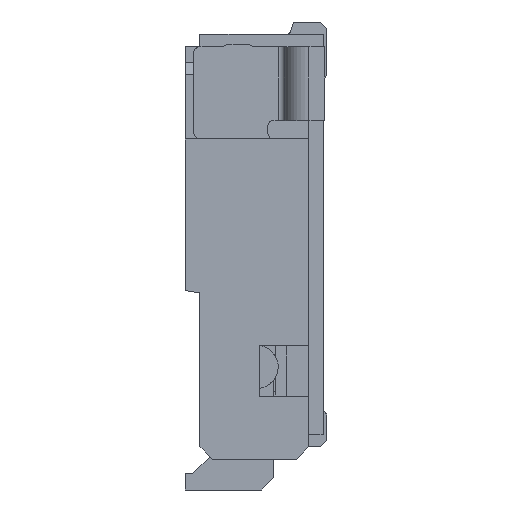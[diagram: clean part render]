
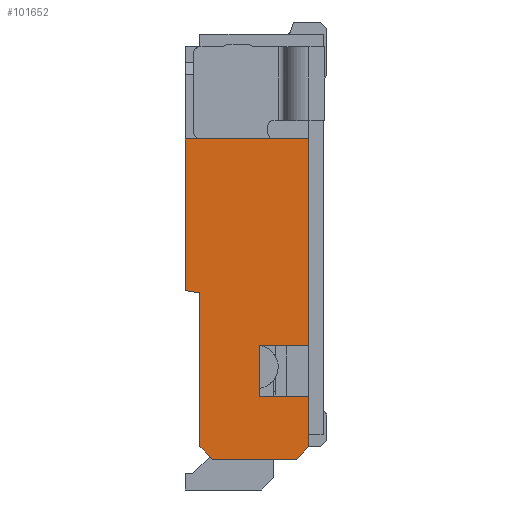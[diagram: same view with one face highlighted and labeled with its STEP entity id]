
A CAD part, left-side view. The second image highlights one B-rep face of the part: STEP entity #101652.
In plain terms, the highlighted planar face has unit normal (-1, 0, 0).
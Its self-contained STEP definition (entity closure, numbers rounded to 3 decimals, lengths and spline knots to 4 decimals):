
#25=DIRECTION('',(0.,-1.,0.));
#26=VECTOR('',#25,0.68);
#27=CARTESIAN_POINT('',(-8.7,0.34,-1.725));
#28=LINE('',#27,#26);
#175=DIRECTION('',(0.,0.,1.));
#176=VECTOR('',#175,1.68);
#177=CARTESIAN_POINT('',(-8.7,-0.44,-0.805));
#178=LINE('',#177,#176);
#199=DIRECTION('',(0.,0.,1.));
#200=VECTOR('',#199,0.41);
#201=CARTESIAN_POINT('',(-8.7,-0.44,-1.625));
#202=LINE('',#201,#200);
#2190=DIRECTION('',(0.,0.,-1.));
#2191=VECTOR('',#2190,0.41);
#2192=CARTESIAN_POINT('',(-8.7,-0.04,-0.805));
#2193=LINE('',#2192,#2191);
#2194=DIRECTION('',(0.,1.,0.));
#2195=VECTOR('',#2194,0.4);
#2196=CARTESIAN_POINT('',(-8.7,-0.44,-1.215));
#2197=LINE('',#2196,#2195);
#2198=DIRECTION('',(0.,-0.707,0.707));
#2199=VECTOR('',#2198,0.1414);
#2200=CARTESIAN_POINT('',(-8.7,-0.34,-1.725));
#2201=LINE('',#2200,#2199);
#2202=DIRECTION('',(0.,-0.707,-0.707));
#2203=VECTOR('',#2202,0.1414);
#2204=CARTESIAN_POINT('',(-8.7,0.44,-1.625));
#2205=LINE('',#2204,#2203);
#2206=DIRECTION('',(0.,0.,1.));
#2207=VECTOR('',#2206,1.25);
#2208=CARTESIAN_POINT('',(-8.7,0.44,-1.625));
#2209=LINE('',#2208,#2207);
#2210=DIRECTION('',(0.,-0.986,-0.164));
#2211=VECTOR('',#2210,0.1217);
#2212=CARTESIAN_POINT('',(-8.7,0.56,-0.355));
#2213=LINE('',#2212,#2211);
#2214=DIRECTION('',(0.,0.,1.));
#2215=VECTOR('',#2214,1.23);
#2216=CARTESIAN_POINT('',(-8.7,0.56,-0.355));
#2217=LINE('',#2216,#2215);
#2218=DIRECTION('',(0.,-1.,0.));
#2219=VECTOR('',#2218,1.);
#2220=CARTESIAN_POINT('',(-8.7,0.56,0.875));
#2221=LINE('',#2220,#2219);
#2222=DIRECTION('',(0.,1.,0.));
#2223=VECTOR('',#2222,0.4);
#2224=CARTESIAN_POINT('',(-8.7,-0.44,-0.805));
#2225=LINE('',#2224,#2223);
#75387=CARTESIAN_POINT('',(-8.7,0.44,-1.625));
#75388=CARTESIAN_POINT('',(-8.7,0.34,-1.725));
#75389=VERTEX_POINT('',#75387);
#75390=VERTEX_POINT('',#75388);
#75391=CARTESIAN_POINT('',(-8.7,0.44,-0.375));
#75392=VERTEX_POINT('',#75391);
#75395=CARTESIAN_POINT('',(-8.7,-0.34,-1.725));
#75396=VERTEX_POINT('',#75395);
#75399=CARTESIAN_POINT('',(-8.7,-0.44,-1.625));
#75400=VERTEX_POINT('',#75399);
#75857=CARTESIAN_POINT('',(-8.7,0.56,-0.355));
#75858=VERTEX_POINT('',#75857);
#75861=CARTESIAN_POINT('',(-8.7,0.56,0.875));
#75862=CARTESIAN_POINT('',(-8.7,-0.44,0.875));
#75863=VERTEX_POINT('',#75861);
#75864=VERTEX_POINT('',#75862);
#76795=CARTESIAN_POINT('',(-8.7,-0.04,-0.805));
#76796=CARTESIAN_POINT('',(-8.7,-0.04,-1.215));
#76797=VERTEX_POINT('',#76795);
#76798=VERTEX_POINT('',#76796);
#76799=CARTESIAN_POINT('',(-8.7,-0.44,-1.215));
#76800=VERTEX_POINT('',#76799);
#76801=CARTESIAN_POINT('',(-8.7,-0.44,-0.805));
#76802=VERTEX_POINT('',#76801);
#101627=CARTESIAN_POINT('',(-8.7,0.56,-1.725));
#101628=DIRECTION('',(-1.,0.,0.));
#101629=DIRECTION('',(0.,-1.,0.));
#101630=AXIS2_PLACEMENT_3D('',#101627,#101628,#101629);
#101631=PLANE('',#101630);
#101632=ORIENTED_EDGE('',*,*,#99639,.T.);
#101634=ORIENTED_EDGE('',*,*,#101633,.F.);
#101635=ORIENTED_EDGE('',*,*,#99556,.F.);
#101637=ORIENTED_EDGE('',*,*,#101636,.F.);
#101638=ORIENTED_EDGE('',*,*,#99370,.F.);
#101639=ORIENTED_EDGE('',*,*,#101607,.F.);
#101640=ORIENTED_EDGE('',*,*,#100758,.T.);
#101642=ORIENTED_EDGE('',*,*,#101641,.F.);
#101644=ORIENTED_EDGE('',*,*,#101643,.T.);
#101646=ORIENTED_EDGE('',*,*,#101645,.T.);
#101647=ORIENTED_EDGE('',*,*,#99540,.F.);
#101649=ORIENTED_EDGE('',*,*,#101648,.T.);
#101650=EDGE_LOOP('',(#101632,#101634,#101635,#101637,#101638,#101639,#101640,
#101642,#101644,#101646,#101647,#101649));
#101651=FACE_OUTER_BOUND('',#101650,.F.);
#101652=ADVANCED_FACE('',(#101651),#101631,.T.);
#99370=EDGE_CURVE('',#75390,#75396,#28,.T.);
#99540=EDGE_CURVE('',#76802,#75864,#178,.T.);
#99556=EDGE_CURVE('',#75400,#76800,#202,.T.);
#99639=EDGE_CURVE('',#76797,#76798,#2193,.T.);
#100758=EDGE_CURVE('',#75389,#75392,#2209,.T.);
#101607=EDGE_CURVE('',#75389,#75390,#2205,.T.);
#101633=EDGE_CURVE('',#76800,#76798,#2197,.T.);
#101636=EDGE_CURVE('',#75396,#75400,#2201,.T.);
#101641=EDGE_CURVE('',#75858,#75392,#2213,.T.);
#101643=EDGE_CURVE('',#75858,#75863,#2217,.T.);
#101645=EDGE_CURVE('',#75863,#75864,#2221,.T.);
#101648=EDGE_CURVE('',#76802,#76797,#2225,.T.);
